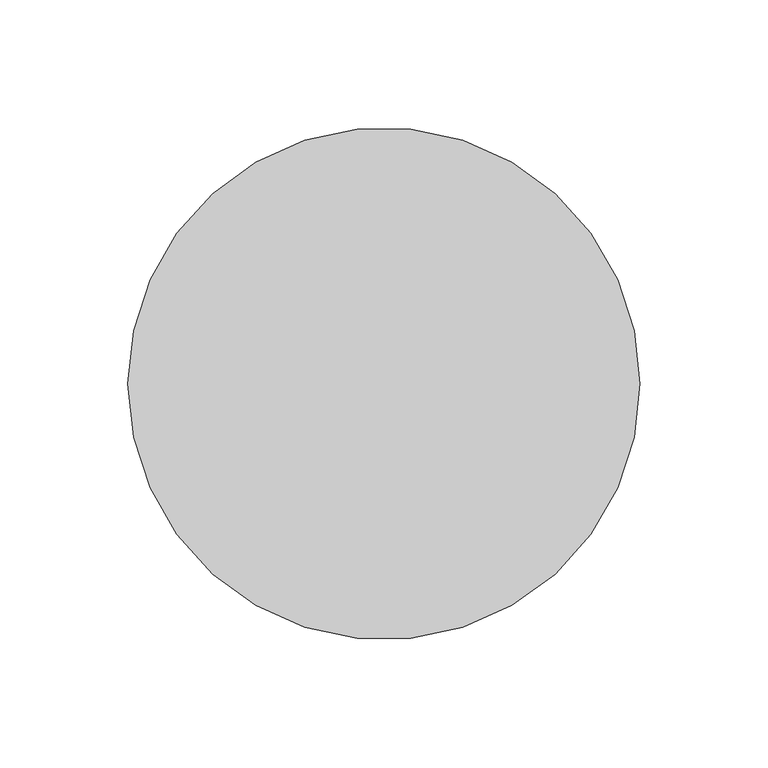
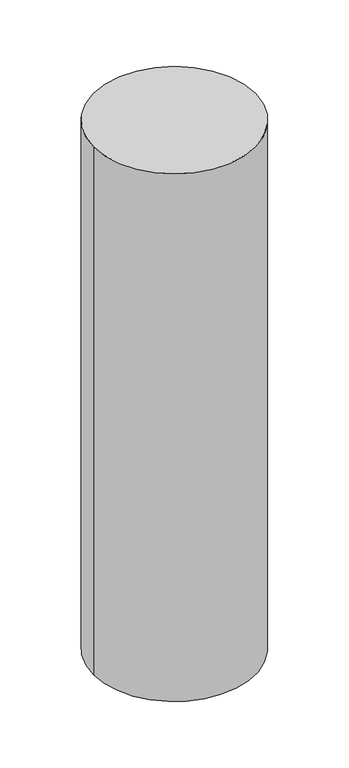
"""IFC4 building model written with IfcOpenShell, lengths in millimetres: member geometry, 矩形竖梃 : 圆瓦."""

from ifc_helpers import new_model, si_unit, point, frame, origin, origin_2d, place, context, project, spatial, circle_curve, trimmed, segment, composite_curve, outline, extrude, source, transform, mapped, element, save


def member_9361b17f(model_context):
    return source(origin(), model_context, "Body", "SweptSolid", [
        extrude(outline(composite_curve([segment(trimmed(circle_curve(origin_2d(), 100.0), [point((100.0, 0.0))], [point((-100.0, 0.0))], False, "CARTESIAN"), True, "CONTINUOUS"), segment(trimmed(circle_curve(origin_2d(), 100.0), [point((-100.0, 0.0))], [point((100.0, 0.0))], False, "CARTESIAN"), True, "CONTINUOUS")], self_intersect=False)), frame((0.0, 0.0, -688.5769619), z_axis=(0.0, 0.0, 1.0), x_axis=(1.0, 0.0, 0.0)), (0.0, 0.0, 1.0), 688.5769619),
    ])


if __name__ == "__main__":
    model = new_model("IFC4")
    model_context = context("Model", 3, world=origin())
    ifc_project = project(units=[si_unit("LENGTHUNIT", "METRE", prefix="MILLI")], contexts=[model_context])
    site = spatial("IfcSite", under=ifc_project)
    building = spatial("IfcBuilding", under=site)
    placement = place(None, origin())
    member_shape = member_9361b17f(model_context)
    element("IfcMember", 1, ObjectType="矩形竖梃 : 圆瓦", at=placement, inside=building, context=model_context, shape_type="MappedRepresentation", body=[
        mapped(member_shape, transform((0.0, 0.0, 0.0), x_axis=(1.0, 0.0, 0.0), y_axis=(0.0, 1.0, 0.0), z_axis=(0.0, 0.0, 1.0))),
    ])
    save(model, "model.ifc")
